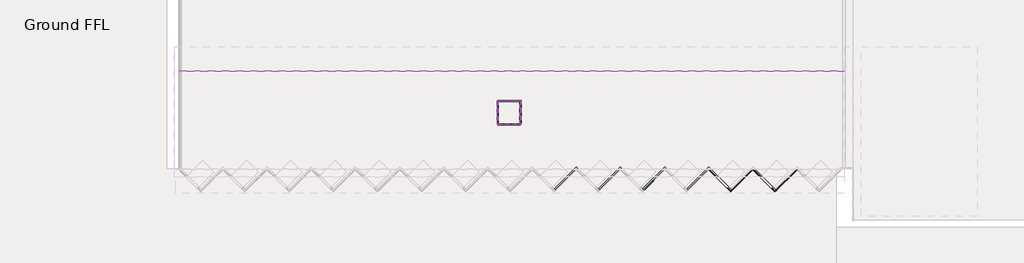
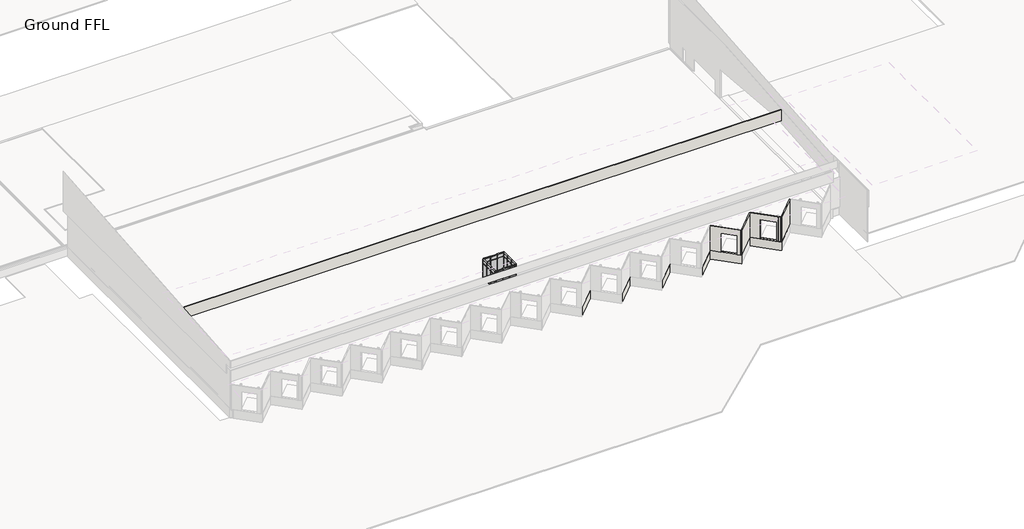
# One storey, part 2 of 7: 66 members, 24 plates, 11 walls.
"""IFC4 building model written with IfcOpenShell, lengths in millimetres."""

from ifc_helpers import new_model, si_unit, frame, origin, place, context, project, spatial, polyline, outline, extrude, faceted_brep, transform, mapped, element, save
from components import rectangular_mullion_50_x_150mm_662c37b1, rectangular_mullion_50_x_150mm_6225e4e3, rectangular_mullion_50_x_150mm_64d38db8, rectangular_mullion_50_x_150mm_68b3818a, rectangular_mullion_50_x_150mm_477ca9b8, rectangular_mullion_50_x_150mm_3d733e68, rectangular_mullion_50_x_150mm_c9412cac, rectangular_mullion_50_x_150mm_e8271e18, rectangular_mullion_50_x_150mm_bb29f1ad, rectangular_mullion_50_x_150mm_795c251c, rectangular_mullion_50_x_150mm_8f327472, rectangular_mullion_50_x_150mm_d24e7f91, rectangular_mullion_50_x_150mm_4b768477, rectangular_mullion_50_x_150mm_636173d5, system_panel_glazed_97791b95, system_panel_glazed_672343e4, system_panel_glazed_aafa14a7, system_panel_glazed_23566d67, system_panel_glazed_bf9b8f05, system_panel_glazed_0784fe47, system_panel_glazed_7d7c0d92, system_panel_glazed_c9ca4ddb, system_panel_glazed_bdccf6d4, system_panel_glazed_414e65e8, system_panel_glazed_72f60e3a, system_panel_glazed_5c63aebc

model = new_model("IFC4")

# Units and contexts
model_context = context("Model", 3, world=origin())
ifc_project = project(units=[si_unit("LENGTHUNIT", "METRE", prefix="MILLI")], contexts=[model_context])

# Site, building, storey
site = spatial("IfcSite", under=ifc_project)
building = spatial("IfcBuilding", under=site)
storey = spatial("IfcBuildingStorey", under=building, Name="Ground FFL", Elevation=44170.0)

# Members
placement = place(None, origin())
rectangular_mullion_50_x_150mm_shape = rectangular_mullion_50_x_150mm_662c37b1(model_context)
element("IfcMember", 1, ObjectType="Rectangular Mullion : 50 x 150mm", at=placement, inside=storey, context=model_context, shape_type="MappedRepresentation", body=[
    mapped(rectangular_mullion_50_x_150mm_shape, transform((-91650.5917799, -21321.740321, 44170.0), x_axis=(-1.0, 0.0, 0.0), y_axis=(0.0, 1.0, 0.0), z_axis=(0.0, 0.0, -1.0))),
])
element("IfcMember", 2, ObjectType="Rectangular Mullion : 50 x 150mm", at=placement, inside=storey, context=model_context, shape_type="MappedRepresentation", body=[
    mapped(rectangular_mullion_50_x_150mm_shape, transform((-91650.5917799, -24521.740321, 44170.0), x_axis=(-1.0, 0.0, 0.0), y_axis=(0.0, 1.0, 0.0), z_axis=(0.0, 0.0, -1.0))),
])
rectangular_mullion_50_x_150mm_2_shape = rectangular_mullion_50_x_150mm_6225e4e3(model_context)
element("IfcMember", 3, ObjectType="Rectangular Mullion : 50 x 150mm", at=placement, inside=storey, context=model_context, shape_type="MappedRepresentation", body=[
    mapped(rectangular_mullion_50_x_150mm_2_shape, transform((-89617.2584467, -24521.740321, 44170.0), x_axis=(-1.0, 0.0, 0.0), y_axis=(0.0, 1.0, 0.0), z_axis=(0.0, 0.0, -1.0))),
])
element("IfcMember", 4, ObjectType="Rectangular Mullion : 50 x 150mm", at=placement, inside=storey, context=model_context, shape_type="MappedRepresentation", body=[
    mapped(rectangular_mullion_50_x_150mm_2_shape, transform((-90633.9251131, -24521.740321, 44170.0), x_axis=(-1.0, 0.0, 0.0), y_axis=(0.0, 1.0, 0.0), z_axis=(0.0, 0.0, -1.0))),
])
element("IfcMember", 5, ObjectType="Rectangular Mullion : 50 x 150mm", at=placement, inside=storey, context=model_context, shape_type="MappedRepresentation", body=[
    mapped(rectangular_mullion_50_x_150mm_2_shape, transform((-89617.2584467, -21321.740321, 44170.0), x_axis=(-1.0, 0.0, 0.0), y_axis=(0.0, 1.0, 0.0), z_axis=(0.0, 0.0, -1.0))),
])
element("IfcMember", 6, ObjectType="Rectangular Mullion : 50 x 150mm", at=placement, inside=storey, context=model_context, shape_type="MappedRepresentation", body=[
    mapped(rectangular_mullion_50_x_150mm_2_shape, transform((-90633.9251131, -21321.740321, 44170.0), x_axis=(-1.0, 0.0, 0.0), y_axis=(0.0, 1.0, 0.0), z_axis=(0.0, 0.0, -1.0))),
])
rectangular_mullion_50_x_150mm_3_shape = rectangular_mullion_50_x_150mm_64d38db8(model_context)
element("IfcMember", 7, ObjectType="Rectangular Mullion : 50 x 150mm", at=placement, inside=storey, context=model_context, shape_type="MappedRepresentation", body=[
    mapped(rectangular_mullion_50_x_150mm_3_shape, transform((-88600.5917799, -24521.740321, 47170.0), x_axis=(1.0, 0.0, 0.0), y_axis=(0.0, 1.0, 0.0), z_axis=(0.0, 0.0, 1.0))),
])
element("IfcMember", 8, ObjectType="Rectangular Mullion : 50 x 150mm", at=placement, inside=storey, context=model_context, shape_type="MappedRepresentation", body=[
    mapped(rectangular_mullion_50_x_150mm_3_shape, transform((-91650.5917799, -24521.740321, 46570.0), x_axis=(-1.0, 0.0, 0.0), y_axis=(0.0, 1.0, 0.0), z_axis=(0.0, 0.0, -1.0))),
])
element("IfcMember", 9, ObjectType="Rectangular Mullion : 50 x 150mm", at=placement, inside=storey, context=model_context, shape_type="MappedRepresentation", body=[
    mapped(rectangular_mullion_50_x_150mm_shape, transform((-88600.5917799, -24521.740321, 46570.0), x_axis=(1.0, 0.0, 0.0), y_axis=(0.0, 1.0, 0.0), z_axis=(0.0, 0.0, 1.0))),
])
element("IfcMember", 10, ObjectType="Rectangular Mullion : 50 x 150mm", at=placement, inside=storey, context=model_context, shape_type="MappedRepresentation", body=[
    mapped(rectangular_mullion_50_x_150mm_shape, transform((-88600.5917799, -21321.740321, 46570.0), x_axis=(1.0, 0.0, 0.0), y_axis=(0.0, 1.0, 0.0), z_axis=(0.0, 0.0, 1.0))),
])
rectangular_mullion_50_x_150mm_4_shape = rectangular_mullion_50_x_150mm_68b3818a(model_context)
element("IfcMember", 11, ObjectType="Rectangular Mullion : 50 x 150mm", at=placement, inside=storey, context=model_context, shape_type="MappedRepresentation", body=[
    mapped(rectangular_mullion_50_x_150mm_4_shape, transform((-89617.2584467, -24521.740321, 46570.0), x_axis=(-1.0, 0.0, 0.0), y_axis=(0.0, 1.0, 0.0), z_axis=(0.0, 0.0, -1.0))),
])
element("IfcMember", 12, ObjectType="Rectangular Mullion : 50 x 150mm", at=placement, inside=storey, context=model_context, shape_type="MappedRepresentation", body=[
    mapped(rectangular_mullion_50_x_150mm_4_shape, transform((-90633.9251131, -24521.740321, 46570.0), x_axis=(-1.0, 0.0, 0.0), y_axis=(0.0, 1.0, 0.0), z_axis=(0.0, 0.0, -1.0))),
])
rectangular_mullion_50_x_150mm_5_shape = rectangular_mullion_50_x_150mm_477ca9b8(model_context)
element("IfcMember", 13, ObjectType="Rectangular Mullion : 50 x 150mm", at=placement, inside=storey, context=model_context, shape_type="MappedRepresentation", body=[
    mapped(rectangular_mullion_50_x_150mm_5_shape, transform((-88600.5917799, -24421.740321, 47170.0), x_axis=(0.0, 0.0, 1.0), y_axis=(-1.0, 0.0, 0.0), z_axis=(0.0, -1.0, 0.0))),
])
element("IfcMember", 14, ObjectType="Rectangular Mullion : 50 x 150mm", at=placement, inside=storey, context=model_context, shape_type="MappedRepresentation", body=[
    mapped(rectangular_mullion_50_x_150mm_5_shape, transform((-91700.5917799, -22363.4069878, 47171.145744), x_axis=(0.0, 0.0, 1.0), y_axis=(-1.0, 0.0, 0.0), z_axis=(0.0, -1.0, 0.0))),
])
element("IfcMember", 15, ObjectType="Rectangular Mullion : 50 x 150mm", at=placement, inside=storey, context=model_context, shape_type="MappedRepresentation", body=[
    mapped(rectangular_mullion_50_x_150mm_5_shape, transform((-88600.5917799, -22313.4069878, 47170.0), x_axis=(0.0, 0.0, 1.0), y_axis=(-1.0, 0.0, 0.0), z_axis=(0.0, -1.0, 0.0))),
])
element("IfcMember", 16, ObjectType="Rectangular Mullion : 50 x 150mm", at=placement, inside=storey, context=model_context, shape_type="MappedRepresentation", body=[
    mapped(rectangular_mullion_50_x_150mm_5_shape, transform((-91700.5917799, -21371.740321, 44170.0), x_axis=(0.0, 0.0, -1.0), y_axis=(-1.0, 0.0, 0.0), z_axis=(0.0, 1.0, 0.0))),
])
element("IfcMember", 17, ObjectType="Rectangular Mullion : 50 x 150mm", at=placement, inside=storey, context=model_context, shape_type="MappedRepresentation", body=[
    mapped(rectangular_mullion_50_x_150mm_5_shape, transform((-88600.5917799, -21321.740321, 44170.0), x_axis=(0.0, 0.0, -1.0), y_axis=(-1.0, 0.0, 0.0), z_axis=(0.0, 1.0, 0.0))),
])
element("IfcMember", 18, ObjectType="Rectangular Mullion : 50 x 150mm", at=placement, inside=storey, context=model_context, shape_type="MappedRepresentation", body=[
    mapped(rectangular_mullion_50_x_150mm_5_shape, transform((-91700.5917799, -23480.0736542, 44170.0), x_axis=(0.0, 0.0, -1.0), y_axis=(-1.0, 0.0, 0.0), z_axis=(0.0, 1.0, 0.0))),
])
element("IfcMember", 19, ObjectType="Rectangular Mullion : 50 x 150mm", at=placement, inside=storey, context=model_context, shape_type="MappedRepresentation", body=[
    mapped(rectangular_mullion_50_x_150mm_5_shape, transform((-88600.5917799, -23430.0736542, 44170.0), x_axis=(0.0, 0.0, -1.0), y_axis=(-1.0, 0.0, 0.0), z_axis=(0.0, 1.0, 0.0))),
])
rectangular_mullion_50_x_150mm_6_shape = rectangular_mullion_50_x_150mm_3d733e68(model_context)
element("IfcMember", 20, ObjectType="Rectangular Mullion : 50 x 150mm", at=placement, inside=storey, context=model_context, shape_type="MappedRepresentation", body=[
    mapped(rectangular_mullion_50_x_150mm_6_shape, transform((-91700.5917799, -23430.0736542, 47171.145744), x_axis=(0.0, 0.0, 1.0), y_axis=(-1.0, 0.0, 0.0), z_axis=(0.0, -1.0, 0.0))),
])
element("IfcMember", 21, ObjectType="Rectangular Mullion : 50 x 150mm", at=placement, inside=storey, context=model_context, shape_type="MappedRepresentation", body=[
    mapped(rectangular_mullion_50_x_150mm_6_shape, transform((-88600.5917799, -23380.0736542, 47170.0), x_axis=(0.0, 0.0, 1.0), y_axis=(-1.0, 0.0, 0.0), z_axis=(0.0, -1.0, 0.0))),
])
element("IfcMember", 22, ObjectType="Rectangular Mullion : 50 x 150mm", at=placement, inside=storey, context=model_context, shape_type="MappedRepresentation", body=[
    mapped(rectangular_mullion_50_x_150mm_6_shape, transform((-91700.5917799, -22413.4069878, 44170.0), x_axis=(0.0, 0.0, -1.0), y_axis=(-1.0, 0.0, 0.0), z_axis=(0.0, 1.0, 0.0))),
])
element("IfcMember", 23, ObjectType="Rectangular Mullion : 50 x 150mm", at=placement, inside=storey, context=model_context, shape_type="MappedRepresentation", body=[
    mapped(rectangular_mullion_50_x_150mm_6_shape, transform((-88600.5917799, -22363.4069878, 44170.0), x_axis=(0.0, 0.0, -1.0), y_axis=(-1.0, 0.0, 0.0), z_axis=(0.0, 1.0, 0.0))),
])
rectangular_mullion_50_x_150mm_7_shape = rectangular_mullion_50_x_150mm_c9412cac(model_context)
element("IfcMember", 24, ObjectType="Rectangular Mullion : 50 x 150mm", at=placement, inside=storey, context=model_context, shape_type="MappedRepresentation", body=[
    mapped(rectangular_mullion_50_x_150mm_7_shape, transform((-91700.5917799, -22363.4069878, 46570.0), x_axis=(0.0, 0.0, 1.0), y_axis=(-1.0, 0.0, 0.0), z_axis=(0.0, -1.0, 0.0))),
])
element("IfcMember", 25, ObjectType="Rectangular Mullion : 50 x 150mm", at=placement, inside=storey, context=model_context, shape_type="MappedRepresentation", body=[
    mapped(rectangular_mullion_50_x_150mm_7_shape, transform((-91700.5917799, -24471.740321, 46570.0), x_axis=(0.0, 0.0, 1.0), y_axis=(-1.0, 0.0, 0.0), z_axis=(0.0, -1.0, 0.0))),
])
element("IfcMember", 26, ObjectType="Rectangular Mullion : 50 x 150mm", at=placement, inside=storey, context=model_context, shape_type="MappedRepresentation", body=[
    mapped(rectangular_mullion_50_x_150mm_7_shape, transform((-88600.5917799, -22313.4069878, 46570.0), x_axis=(0.0, 0.0, 1.0), y_axis=(-1.0, 0.0, 0.0), z_axis=(0.0, -1.0, 0.0))),
])
element("IfcMember", 27, ObjectType="Rectangular Mullion : 50 x 150mm", at=placement, inside=storey, context=model_context, shape_type="MappedRepresentation", body=[
    mapped(rectangular_mullion_50_x_150mm_7_shape, transform((-88600.5917799, -24421.740321, 46570.0), x_axis=(0.0, 0.0, 1.0), y_axis=(-1.0, 0.0, 0.0), z_axis=(0.0, -1.0, 0.0))),
])
rectangular_mullion_50_x_150mm_8_shape = rectangular_mullion_50_x_150mm_e8271e18(model_context)
element("IfcMember", 28, ObjectType="Rectangular Mullion : 50 x 150mm", at=placement, inside=storey, context=model_context, shape_type="MappedRepresentation", body=[
    mapped(rectangular_mullion_50_x_150mm_8_shape, transform((-91700.5917799, -23430.0736542, 46570.0), x_axis=(0.0, 0.0, 1.0), y_axis=(-1.0, 0.0, 0.0), z_axis=(0.0, -1.0, 0.0))),
])
element("IfcMember", 29, ObjectType="Rectangular Mullion : 50 x 150mm", at=placement, inside=storey, context=model_context, shape_type="MappedRepresentation", body=[
    mapped(rectangular_mullion_50_x_150mm_8_shape, transform((-88600.5917799, -23380.0736542, 46570.0), x_axis=(0.0, 0.0, 1.0), y_axis=(-1.0, 0.0, 0.0), z_axis=(0.0, -1.0, 0.0))),
])
element("IfcMember", 30, ObjectType="Rectangular Mullion : 50 x 150mm", at=placement, inside=storey, context=model_context, shape_type="MappedRepresentation", body=[
    mapped(rectangular_mullion_50_x_150mm_2_shape, transform((-91700.5917799, -22388.4069878, 44170.0), x_axis=(0.0, -1.0, 0.0), y_axis=(-1.0, 0.0, 0.0), z_axis=(0.0, 0.0, -1.0))),
])
element("IfcMember", 31, ObjectType="Rectangular Mullion : 50 x 150mm", at=placement, inside=storey, context=model_context, shape_type="MappedRepresentation", body=[
    mapped(rectangular_mullion_50_x_150mm_2_shape, transform((-91700.5917799, -23455.0736542, 44170.0), x_axis=(0.0, -1.0, 0.0), y_axis=(-1.0, 0.0, 0.0), z_axis=(0.0, 0.0, -1.0))),
])
element("IfcMember", 32, ObjectType="Rectangular Mullion : 50 x 150mm", at=placement, inside=storey, context=model_context, shape_type="MappedRepresentation", body=[
    mapped(rectangular_mullion_50_x_150mm_2_shape, transform((-88600.5917799, -22338.4069878, 44170.0), x_axis=(0.0, -1.0, 0.0), y_axis=(-1.0, 0.0, 0.0), z_axis=(0.0, 0.0, -1.0))),
])
element("IfcMember", 33, ObjectType="Rectangular Mullion : 50 x 150mm", at=placement, inside=storey, context=model_context, shape_type="MappedRepresentation", body=[
    mapped(rectangular_mullion_50_x_150mm_2_shape, transform((-88600.5917799, -23405.0736542, 44170.0), x_axis=(0.0, -1.0, 0.0), y_axis=(-1.0, 0.0, 0.0), z_axis=(0.0, 0.0, -1.0))),
])
rectangular_mullion_50_x_150mm_9_shape = rectangular_mullion_50_x_150mm_bb29f1ad(model_context)
element("IfcMember", 34, ObjectType="Rectangular Mullion : 50 x 150mm", at=placement, inside=storey, context=model_context, shape_type="MappedRepresentation", body=[
    mapped(rectangular_mullion_50_x_150mm_9_shape, transform((-91600.5917799, -21321.740321, 47171.145744), x_axis=(0.0, 0.0, 1.0), y_axis=(0.0, 1.0, 0.0), z_axis=(-1.0, 0.0, 0.0))),
])
element("IfcMember", 35, ObjectType="Rectangular Mullion : 50 x 150mm", at=placement, inside=storey, context=model_context, shape_type="MappedRepresentation", body=[
    mapped(rectangular_mullion_50_x_150mm_9_shape, transform((-91600.5917799, -24521.740321, 47170.0), x_axis=(0.0, 0.0, 1.0), y_axis=(0.0, 1.0, 0.0), z_axis=(-1.0, 0.0, 0.0))),
])
element("IfcMember", 36, ObjectType="Rectangular Mullion : 50 x 150mm", at=placement, inside=storey, context=model_context, shape_type="MappedRepresentation", body=[
    mapped(rectangular_mullion_50_x_150mm_9_shape, transform((-89592.2584467, -24521.740321, 47170.0), x_axis=(0.0, 0.0, 1.0), y_axis=(0.0, 1.0, 0.0), z_axis=(-1.0, 0.0, 0.0))),
])
element("IfcMember", 37, ObjectType="Rectangular Mullion : 50 x 150mm", at=placement, inside=storey, context=model_context, shape_type="MappedRepresentation", body=[
    mapped(rectangular_mullion_50_x_150mm_9_shape, transform((-89592.2584467, -21321.740321, 47171.145744), x_axis=(0.0, 0.0, 1.0), y_axis=(0.0, 1.0, 0.0), z_axis=(-1.0, 0.0, 0.0))),
])
element("IfcMember", 38, ObjectType="Rectangular Mullion : 50 x 150mm", at=placement, inside=storey, context=model_context, shape_type="MappedRepresentation", body=[
    mapped(rectangular_mullion_50_x_150mm_9_shape, transform((-88650.5917799, -21321.740321, 44170.0), x_axis=(0.0, 0.0, -1.0), y_axis=(0.0, 1.0, 0.0), z_axis=(1.0, 0.0, 0.0))),
])
element("IfcMember", 39, ObjectType="Rectangular Mullion : 50 x 150mm", at=placement, inside=storey, context=model_context, shape_type="MappedRepresentation", body=[
    mapped(rectangular_mullion_50_x_150mm_9_shape, transform((-88650.5917799, -24521.740321, 44170.0), x_axis=(0.0, 0.0, -1.0), y_axis=(0.0, 1.0, 0.0), z_axis=(1.0, 0.0, 0.0))),
])
element("IfcMember", 40, ObjectType="Rectangular Mullion : 50 x 150mm", at=placement, inside=storey, context=model_context, shape_type="MappedRepresentation", body=[
    mapped(rectangular_mullion_50_x_150mm_9_shape, transform((-90658.9251131, -24521.740321, 44170.0), x_axis=(0.0, 0.0, -1.0), y_axis=(0.0, 1.0, 0.0), z_axis=(1.0, 0.0, 0.0))),
])
element("IfcMember", 41, ObjectType="Rectangular Mullion : 50 x 150mm", at=placement, inside=storey, context=model_context, shape_type="MappedRepresentation", body=[
    mapped(rectangular_mullion_50_x_150mm_9_shape, transform((-90658.9251131, -21321.740321, 44170.0), x_axis=(0.0, 0.0, -1.0), y_axis=(0.0, 1.0, 0.0), z_axis=(1.0, 0.0, 0.0))),
])
rectangular_mullion_50_x_150mm_10_shape = rectangular_mullion_50_x_150mm_795c251c(model_context)
element("IfcMember", 42, ObjectType="Rectangular Mullion : 50 x 150mm", at=placement, inside=storey, context=model_context, shape_type="MappedRepresentation", body=[
    mapped(rectangular_mullion_50_x_150mm_10_shape, transform((-90608.9251131, -24521.740321, 47170.0), x_axis=(0.0, 0.0, 1.0), y_axis=(0.0, 1.0, 0.0), z_axis=(-1.0, 0.0, 0.0))),
])
element("IfcMember", 43, ObjectType="Rectangular Mullion : 50 x 150mm", at=placement, inside=storey, context=model_context, shape_type="MappedRepresentation", body=[
    mapped(rectangular_mullion_50_x_150mm_10_shape, transform((-90608.9251131, -21321.740321, 47171.145744), x_axis=(0.0, 0.0, 1.0), y_axis=(0.0, 1.0, 0.0), z_axis=(-1.0, 0.0, 0.0))),
])
element("IfcMember", 44, ObjectType="Rectangular Mullion : 50 x 150mm", at=placement, inside=storey, context=model_context, shape_type="MappedRepresentation", body=[
    mapped(rectangular_mullion_50_x_150mm_10_shape, transform((-89642.2584467, -24521.740321, 44170.0), x_axis=(0.0, 0.0, -1.0), y_axis=(0.0, 1.0, 0.0), z_axis=(1.0, 0.0, 0.0))),
])
element("IfcMember", 45, ObjectType="Rectangular Mullion : 50 x 150mm", at=placement, inside=storey, context=model_context, shape_type="MappedRepresentation", body=[
    mapped(rectangular_mullion_50_x_150mm_10_shape, transform((-89642.2584467, -21321.740321, 44170.0), x_axis=(0.0, 0.0, -1.0), y_axis=(0.0, 1.0, 0.0), z_axis=(1.0, 0.0, 0.0))),
])
rectangular_mullion_50_x_150mm_11_shape = rectangular_mullion_50_x_150mm_8f327472(model_context)
element("IfcMember", 46, ObjectType="Rectangular Mullion : 50 x 150mm", at=placement, inside=storey, context=model_context, shape_type="MappedRepresentation", body=[
    mapped(rectangular_mullion_50_x_150mm_11_shape, transform((-89592.2584467, -24521.740321, 46570.0), x_axis=(0.0, 0.0, 1.0), y_axis=(0.0, 1.0, 0.0), z_axis=(-1.0, 0.0, 0.0))),
])
element("IfcMember", 47, ObjectType="Rectangular Mullion : 50 x 150mm", at=placement, inside=storey, context=model_context, shape_type="MappedRepresentation", body=[
    mapped(rectangular_mullion_50_x_150mm_11_shape, transform((-91600.5917799, -24521.740321, 46570.0), x_axis=(0.0, 0.0, 1.0), y_axis=(0.0, 1.0, 0.0), z_axis=(-1.0, 0.0, 0.0))),
])
element("IfcMember", 48, ObjectType="Rectangular Mullion : 50 x 150mm", at=placement, inside=storey, context=model_context, shape_type="MappedRepresentation", body=[
    mapped(rectangular_mullion_50_x_150mm_11_shape, transform((-89592.2584467, -21321.740321, 46570.0), x_axis=(0.0, 0.0, 1.0), y_axis=(0.0, 1.0, 0.0), z_axis=(-1.0, 0.0, 0.0))),
])
element("IfcMember", 49, ObjectType="Rectangular Mullion : 50 x 150mm", at=placement, inside=storey, context=model_context, shape_type="MappedRepresentation", body=[
    mapped(rectangular_mullion_50_x_150mm_11_shape, transform((-91600.5917799, -21321.740321, 46570.0), x_axis=(0.0, 0.0, 1.0), y_axis=(0.0, 1.0, 0.0), z_axis=(-1.0, 0.0, 0.0))),
])
rectangular_mullion_50_x_150mm_12_shape = rectangular_mullion_50_x_150mm_d24e7f91(model_context)
element("IfcMember", 50, ObjectType="Rectangular Mullion : 50 x 150mm", at=placement, inside=storey, context=model_context, shape_type="MappedRepresentation", body=[
    mapped(rectangular_mullion_50_x_150mm_12_shape, transform((-90608.9251131, -24521.740321, 46570.0), x_axis=(0.0, 0.0, 1.0), y_axis=(0.0, 1.0, 0.0), z_axis=(-1.0, 0.0, 0.0))),
])
element("IfcMember", 51, ObjectType="Rectangular Mullion : 50 x 150mm", at=placement, inside=storey, context=model_context, shape_type="MappedRepresentation", body=[
    mapped(rectangular_mullion_50_x_150mm_12_shape, transform((-90608.9251131, -21321.740321, 46570.0), x_axis=(0.0, 0.0, 1.0), y_axis=(0.0, 1.0, 0.0), z_axis=(-1.0, 0.0, 0.0))),
])
element("IfcMember", 52, ObjectType="Rectangular Mullion : 50 x 150mm", at=placement, inside=storey, context=model_context, shape_type="MappedRepresentation", body=[
    mapped(rectangular_mullion_50_x_150mm_shape, transform((-88600.5917799, -24471.740321, 44170.0), x_axis=(0.0, -1.0, 0.0), y_axis=(-1.0, 0.0, 0.0), z_axis=(0.0, 0.0, -1.0))),
])
element("IfcMember", 53, ObjectType="Rectangular Mullion : 50 x 150mm", at=placement, inside=storey, context=model_context, shape_type="MappedRepresentation", body=[
    mapped(rectangular_mullion_50_x_150mm_shape, transform((-91700.5917799, -21321.740321, 46570.0), x_axis=(0.0, 1.0, 0.0), y_axis=(-1.0, 0.0, 0.0), z_axis=(0.0, 0.0, 1.0))),
])
element("IfcMember", 54, ObjectType="Rectangular Mullion : 50 x 150mm", at=placement, inside=storey, context=model_context, shape_type="MappedRepresentation", body=[
    mapped(rectangular_mullion_50_x_150mm_shape, transform((-88600.5917799, -21271.740321, 46570.0), x_axis=(0.0, 1.0, 0.0), y_axis=(-1.0, 0.0, 0.0), z_axis=(0.0, 0.0, 1.0))),
])
element("IfcMember", 55, ObjectType="Rectangular Mullion : 50 x 150mm", at=placement, inside=storey, context=model_context, shape_type="MappedRepresentation", body=[
    mapped(rectangular_mullion_50_x_150mm_4_shape, transform((-88600.5917799, -22338.4069878, 46570.0), x_axis=(0.0, -1.0, 0.0), y_axis=(-1.0, 0.0, 0.0), z_axis=(0.0, 0.0, -1.0))),
])
element("IfcMember", 56, ObjectType="Rectangular Mullion : 50 x 150mm", at=placement, inside=storey, context=model_context, shape_type="MappedRepresentation", body=[
    mapped(rectangular_mullion_50_x_150mm_4_shape, transform((-88600.5917799, -23405.0736542, 46570.0), x_axis=(0.0, -1.0, 0.0), y_axis=(-1.0, 0.0, 0.0), z_axis=(0.0, 0.0, -1.0))),
])
element("IfcMember", 57, ObjectType="Rectangular Mullion : 50 x 150mm", at=placement, inside=storey, context=model_context, shape_type="MappedRepresentation", body=[
    mapped(rectangular_mullion_50_x_150mm_3_shape, transform((-88600.5917799, -21271.740321, 47170.0), x_axis=(0.0, 1.0, 0.0), y_axis=(-1.0, 0.0, 0.0), z_axis=(0.0, 0.0, 1.0))),
])
element("IfcMember", 58, ObjectType="Rectangular Mullion : 50 x 150mm", at=placement, inside=storey, context=model_context, shape_type="MappedRepresentation", body=[
    mapped(rectangular_mullion_50_x_150mm_3_shape, transform((-88600.5917799, -24471.740321, 46570.0), x_axis=(0.0, -1.0, 0.0), y_axis=(-1.0, 0.0, 0.0), z_axis=(0.0, 0.0, -1.0))),
])
rectangular_mullion_50_x_150mm_13_shape = rectangular_mullion_50_x_150mm_4b768477(model_context)
element("IfcMember", 59, ObjectType="Rectangular Mullion : 50 x 150mm", at=placement, inside=storey, context=model_context, shape_type="MappedRepresentation", body=[
    mapped(rectangular_mullion_50_x_150mm_13_shape, transform((-91700.5917799, -22388.4069878, 46570.0), x_axis=(0.0, -1.0, 0.0), y_axis=(-1.0, 0.0, 0.0), z_axis=(0.0, 0.0, -1.0))),
])
element("IfcMember", 60, ObjectType="Rectangular Mullion : 50 x 150mm", at=placement, inside=storey, context=model_context, shape_type="MappedRepresentation", body=[
    mapped(rectangular_mullion_50_x_150mm_13_shape, transform((-91700.5917799, -23455.0736542, 46570.0), x_axis=(0.0, -1.0, 0.0), y_axis=(-1.0, 0.0, 0.0), z_axis=(0.0, 0.0, -1.0))),
])
rectangular_mullion_50_x_150mm_14_shape = rectangular_mullion_50_x_150mm_636173d5(model_context)
element("IfcMember", 61, ObjectType="Rectangular Mullion : 50 x 150mm", at=placement, inside=storey, context=model_context, shape_type="MappedRepresentation", body=[
    mapped(rectangular_mullion_50_x_150mm_14_shape, transform((-91700.5917799, -21321.740321, 47171.145744), x_axis=(0.0, 1.0, 0.0), y_axis=(-1.0, 0.0, 0.0), z_axis=(0.0, 0.0, 1.0))),
])
element("IfcMember", 62, ObjectType="Rectangular Mullion : 50 x 150mm", at=placement, inside=storey, context=model_context, shape_type="MappedRepresentation", body=[
    mapped(rectangular_mullion_50_x_150mm_14_shape, transform((-91700.5917799, -24521.740321, 46570.0), x_axis=(0.0, -1.0, 0.0), y_axis=(-1.0, 0.0, 0.0), z_axis=(0.0, 0.0, -1.0))),
])
element("IfcMember", 63, ObjectType="Rectangular Mullion : 50 x 150mm", at=placement, inside=storey, context=model_context, shape_type="MappedRepresentation", body=[
    mapped(rectangular_mullion_50_x_150mm_13_shape, transform((-89617.2584467, -21321.740321, 46570.0), x_axis=(-1.0, 0.0, 0.0), y_axis=(0.0, 1.0, 0.0), z_axis=(0.0, 0.0, -1.0))),
])
element("IfcMember", 64, ObjectType="Rectangular Mullion : 50 x 150mm", at=placement, inside=storey, context=model_context, shape_type="MappedRepresentation", body=[
    mapped(rectangular_mullion_50_x_150mm_13_shape, transform((-90633.9251131, -21321.740321, 46570.0), x_axis=(-1.0, 0.0, 0.0), y_axis=(0.0, 1.0, 0.0), z_axis=(0.0, 0.0, -1.0))),
])
element("IfcMember", 65, ObjectType="Rectangular Mullion : 50 x 150mm", at=placement, inside=storey, context=model_context, shape_type="MappedRepresentation", body=[
    mapped(rectangular_mullion_50_x_150mm_14_shape, transform((-88600.5917799, -21321.740321, 47171.145744), x_axis=(1.0, 0.0, 0.0), y_axis=(0.0, 1.0, 0.0), z_axis=(0.0, 0.0, 1.0))),
])
element("IfcMember", 66, ObjectType="Rectangular Mullion : 50 x 150mm", at=placement, inside=storey, context=model_context, shape_type="MappedRepresentation", body=[
    mapped(rectangular_mullion_50_x_150mm_14_shape, transform((-91650.5917799, -21321.740321, 46570.0), x_axis=(-1.0, 0.0, 0.0), y_axis=(0.0, 1.0, 0.0), z_axis=(0.0, 0.0, -1.0))),
])

# Plates
system_panel_glazed_shape = system_panel_glazed_97791b95(model_context)
element("IfcPlate", 67, ObjectType="System Panel : Glazed", at=placement, inside=storey, context=model_context, shape_type="MappedRepresentation", body=[
    mapped(system_panel_glazed_shape, transform((-91700.5917799, -21867.5736544, 44220.0), x_axis=(0.0, -1.0, 0.0), y_axis=(1.0, 0.0, 0.0), z_axis=(0.0, 0.0, 1.0))),
])
element("IfcPlate", 68, ObjectType="System Panel : Glazed", at=placement, inside=storey, context=model_context, shape_type="MappedRepresentation", body=[
    mapped(system_panel_glazed_shape, transform((-88600.5917799, -21817.5736544, 44220.0), x_axis=(0.0, -1.0, 0.0), y_axis=(1.0, 0.0, 0.0), z_axis=(0.0, 0.0, 1.0))),
])
element("IfcPlate", 69, ObjectType="System Panel : Glazed", at=placement, inside=storey, context=model_context, shape_type="MappedRepresentation", body=[
    mapped(system_panel_glazed_shape, transform((-91700.5917799, -23975.9069876, 44220.0), x_axis=(0.0, -1.0, 0.0), y_axis=(1.0, 0.0, 0.0), z_axis=(0.0, 0.0, 1.0))),
])
element("IfcPlate", 70, ObjectType="System Panel : Glazed", at=placement, inside=storey, context=model_context, shape_type="MappedRepresentation", body=[
    mapped(system_panel_glazed_shape, transform((-88600.5917799, -23925.9069876, 44220.0), x_axis=(0.0, -1.0, 0.0), y_axis=(1.0, 0.0, 0.0), z_axis=(0.0, 0.0, 1.0))),
])
system_panel_glazed_2_shape = system_panel_glazed_672343e4(model_context)
element("IfcPlate", 71, ObjectType="System Panel : Glazed", at=placement, inside=storey, context=model_context, shape_type="MappedRepresentation", body=[
    mapped(system_panel_glazed_2_shape, transform((-89121.4251133, -21321.740321, 44220.0), x_axis=(-1.0, 0.0, 0.0), y_axis=(0.0, -1.0, 0.0), z_axis=(0.0, 0.0, 1.0))),
])
element("IfcPlate", 72, ObjectType="System Panel : Glazed", at=placement, inside=storey, context=model_context, shape_type="MappedRepresentation", body=[
    mapped(system_panel_glazed_2_shape, transform((-89121.4251133, -24521.740321, 44220.0), x_axis=(-1.0, 0.0, 0.0), y_axis=(0.0, -1.0, 0.0), z_axis=(0.0, 0.0, 1.0))),
])
element("IfcPlate", 73, ObjectType="System Panel : Glazed", at=placement, inside=storey, context=model_context, shape_type="MappedRepresentation", body=[
    mapped(system_panel_glazed_2_shape, transform((-91129.7584465, -21321.740321, 44220.0), x_axis=(-1.0, 0.0, 0.0), y_axis=(0.0, -1.0, 0.0), z_axis=(0.0, 0.0, 1.0))),
])
element("IfcPlate", 74, ObjectType="System Panel : Glazed", at=placement, inside=storey, context=model_context, shape_type="MappedRepresentation", body=[
    mapped(system_panel_glazed_2_shape, transform((-91129.7584465, -24521.740321, 44220.0), x_axis=(-1.0, 0.0, 0.0), y_axis=(0.0, -1.0, 0.0), z_axis=(0.0, 0.0, 1.0))),
])
system_panel_glazed_3_shape = system_panel_glazed_aafa14a7(model_context)
element("IfcPlate", 75, ObjectType="System Panel : Glazed", at=placement, inside=storey, context=model_context, shape_type="MappedRepresentation", body=[
    mapped(system_panel_glazed_3_shape, transform((-91700.5917799, -22921.740321, 44220.0), x_axis=(0.0, -1.0, 0.0), y_axis=(1.0, 0.0, 0.0), z_axis=(0.0, 0.0, 1.0))),
])
element("IfcPlate", 76, ObjectType="System Panel : Glazed", at=placement, inside=storey, context=model_context, shape_type="MappedRepresentation", body=[
    mapped(system_panel_glazed_3_shape, transform((-88600.5917799, -22871.740321, 44220.0), x_axis=(0.0, -1.0, 0.0), y_axis=(1.0, 0.0, 0.0), z_axis=(0.0, 0.0, 1.0))),
])
system_panel_glazed_4_shape = system_panel_glazed_23566d67(model_context)
element("IfcPlate", 77, ObjectType="System Panel : Glazed", at=placement, inside=storey, context=model_context, shape_type="MappedRepresentation", body=[
    mapped(system_panel_glazed_4_shape, transform((-90125.5917799, -21321.740321, 44220.0), x_axis=(-1.0, 0.0, 0.0), y_axis=(0.0, -1.0, 0.0), z_axis=(0.0, 0.0, 1.0))),
])
element("IfcPlate", 78, ObjectType="System Panel : Glazed", at=placement, inside=storey, context=model_context, shape_type="MappedRepresentation", body=[
    mapped(system_panel_glazed_4_shape, transform((-90125.5917799, -24521.740321, 44220.0), x_axis=(-1.0, 0.0, 0.0), y_axis=(0.0, -1.0, 0.0), z_axis=(0.0, 0.0, 1.0))),
])
system_panel_glazed_5_shape = system_panel_glazed_bf9b8f05(model_context)
element("IfcPlate", 79, ObjectType="System Panel : Glazed", at=placement, inside=storey, context=model_context, shape_type="MappedRepresentation", body=[
    mapped(system_panel_glazed_5_shape, transform((-89121.4251133, -24521.740321, 46595.0), x_axis=(-1.0, 0.0, 0.0), y_axis=(0.0, -1.0, 0.0), z_axis=(0.0, 0.0, 1.0))),
])
element("IfcPlate", 80, ObjectType="System Panel : Glazed", at=placement, inside=storey, context=model_context, shape_type="MappedRepresentation", body=[
    mapped(system_panel_glazed_5_shape, transform((-91129.7584465, -24521.740321, 46595.0), x_axis=(-1.0, 0.0, 0.0), y_axis=(0.0, -1.0, 0.0), z_axis=(0.0, 0.0, 1.0))),
])
system_panel_glazed_6_shape = system_panel_glazed_0784fe47(model_context)
element("IfcPlate", 81, ObjectType="System Panel : Glazed", at=placement, inside=storey, context=model_context, shape_type="MappedRepresentation", body=[
    mapped(system_panel_glazed_6_shape, transform((-90125.5917799, -24521.740321, 46595.0), x_axis=(-1.0, 0.0, 0.0), y_axis=(0.0, -1.0, 0.0), z_axis=(0.0, 0.0, 1.0))),
])
system_panel_glazed_7_shape = system_panel_glazed_7d7c0d92(model_context)
element("IfcPlate", 82, ObjectType="System Panel : Glazed", at=placement, inside=storey, context=model_context, shape_type="MappedRepresentation", body=[
    mapped(system_panel_glazed_7_shape, transform((-88600.5917799, -21817.5736544, 46595.0), x_axis=(0.0, -1.0, 0.0), y_axis=(1.0, 0.0, 0.0), z_axis=(0.0, 0.0, 1.0))),
])
element("IfcPlate", 83, ObjectType="System Panel : Glazed", at=placement, inside=storey, context=model_context, shape_type="MappedRepresentation", body=[
    mapped(system_panel_glazed_7_shape, transform((-88600.5917799, -23925.9069876, 46595.0), x_axis=(0.0, -1.0, 0.0), y_axis=(1.0, 0.0, 0.0), z_axis=(0.0, 0.0, 1.0))),
])
system_panel_glazed_8_shape = system_panel_glazed_c9ca4ddb(model_context)
element("IfcPlate", 84, ObjectType="System Panel : Glazed", at=placement, inside=storey, context=model_context, shape_type="MappedRepresentation", body=[
    mapped(system_panel_glazed_8_shape, transform((-88600.5917799, -22871.740321, 46595.0), x_axis=(0.0, -1.0, 0.0), y_axis=(1.0, 0.0, 0.0), z_axis=(0.0, 0.0, 1.0))),
])
system_panel_glazed_9_shape = system_panel_glazed_bdccf6d4(model_context)
element("IfcPlate", 85, ObjectType="System Panel : Glazed", at=placement, inside=storey, context=model_context, shape_type="MappedRepresentation", body=[
    mapped(system_panel_glazed_9_shape, transform((-91700.5917799, -21867.5736544, 46595.0), x_axis=(0.0, -1.0, 0.0), y_axis=(1.0, 0.0, 0.0), z_axis=(0.0, 0.0, 1.0))),
])
element("IfcPlate", 86, ObjectType="System Panel : Glazed", at=placement, inside=storey, context=model_context, shape_type="MappedRepresentation", body=[
    mapped(system_panel_glazed_9_shape, transform((-91700.5917799, -23975.9069876, 46595.0), x_axis=(0.0, -1.0, 0.0), y_axis=(1.0, 0.0, 0.0), z_axis=(0.0, 0.0, 1.0))),
])
system_panel_glazed_10_shape = system_panel_glazed_414e65e8(model_context)
element("IfcPlate", 87, ObjectType="System Panel : Glazed", at=placement, inside=storey, context=model_context, shape_type="MappedRepresentation", body=[
    mapped(system_panel_glazed_10_shape, transform((-91700.5917799, -22921.740321, 46595.0), x_axis=(0.0, -1.0, 0.0), y_axis=(1.0, 0.0, 0.0), z_axis=(0.0, 0.0, 1.0))),
])
system_panel_glazed_11_shape = system_panel_glazed_72f60e3a(model_context)
element("IfcPlate", 88, ObjectType="System Panel : Glazed", at=placement, inside=storey, context=model_context, shape_type="MappedRepresentation", body=[
    mapped(system_panel_glazed_11_shape, transform((-89121.4251133, -21321.740321, 46595.0), x_axis=(-1.0, 0.0, 0.0), y_axis=(0.0, -1.0, 0.0), z_axis=(0.0, 0.0, 1.0))),
])
element("IfcPlate", 89, ObjectType="System Panel : Glazed", at=placement, inside=storey, context=model_context, shape_type="MappedRepresentation", body=[
    mapped(system_panel_glazed_11_shape, transform((-91129.7584465, -21321.740321, 46595.0), x_axis=(-1.0, 0.0, 0.0), y_axis=(0.0, -1.0, 0.0), z_axis=(0.0, 0.0, 1.0))),
])
system_panel_glazed_12_shape = system_panel_glazed_5c63aebc(model_context)
element("IfcPlate", 90, ObjectType="System Panel : Glazed", at=placement, inside=storey, context=model_context, shape_type="MappedRepresentation", body=[
    mapped(system_panel_glazed_12_shape, transform((-90125.5917799, -21321.740321, 46595.0), x_axis=(-1.0, 0.0, 0.0), y_axis=(0.0, -1.0, 0.0), z_axis=(0.0, 0.0, 1.0))),
])

# Walls
element("IfcWall", 91, ObjectType="Isopanel", at=placement, inside=storey, context=model_context, shape_type="Brep", body=[
    faceted_brep([(-54115.1737304, -33674.3222716, 44170.0), (-51122.5120901, -30681.6606312, 44170.0), (-51122.5120901, -30681.6606312, 48080.3515496), (-54115.1737304, -33674.3222716, 48080.3515496), (-54185.8844086, -33603.6115935, 44170.0), (-54185.8844086, -33603.6115935, 48080.3515496), (-54115.1737304, -33532.9009153, 48080.3515496), (-51193.2227682, -30610.9499531, 48080.3515496), (-51193.2227682, -30610.9499531, 44170.0), (-54115.1737304, -33532.9009153, 44170.0)], [[[0, 1, 2, 3]], [[4, 5, 6, 7, 8, 9]], [[1, 0, 4, 9, 8]], [[3, 2, 7, 6, 5]], [[0, 3, 5, 4]], [[2, 1, 8, 7]]]),
])
element("IfcWall", 92, ObjectType="Isopanel", at=placement, inside=storey, context=model_context, shape_type="SweptSolid", body=[
    extrude(outline(polyline([(2391.8706318, -3910.3515496), (-1704.4214848, -3910.3515496), (-1704.4214848, 0.0), (-348.1293682, 0.0), (-348.1293682, -3000.0), (1851.8706318, -3000.0), (1851.8706318, 0.0), (2391.8706318, 0.0), (2391.8706318, -3910.3515496)])), frame((-55877.192352, -31912.30365, 44170.0), z_axis=(0.7071067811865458, 0.7071067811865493, 0.0), x_axis=(0.7071067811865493, -0.7071067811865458, 0.0)), (0.0, 0.0, 1.0), 100.0),
])
element("IfcWall", 93, ObjectType="Isopanel", at=placement, inside=storey, context=model_context, shape_type="Brep", body=[
    faceted_brep([(-60100.4970111, -33674.3222716, 44170.0), (-57133.2703996, -30707.0956601, 44170.0), (-57133.2703996, -30707.0956601, 48080.3515496), (-60100.4970111, -33674.3222716, 48080.3515496), (-60171.2076892, -33603.6115935, 44170.0), (-60171.2076892, -33603.6115935, 48080.3515496), (-60100.4970111, -33532.9009153, 48080.3515496), (-57203.9810777, -30636.384982, 48080.3515496), (-57203.9810777, -30636.384982, 44170.0), (-60100.4970111, -33532.9009153, 44170.0)], [[[0, 1, 2, 3]], [[4, 5, 6, 7, 8, 9]], [[1, 0, 4, 9, 8]], [[2, 1, 8, 7]], [[3, 2, 7, 6, 5]], [[0, 3, 5, 4]]]),
])
element("IfcWall", 94, ObjectType="Isopanel", at=placement, inside=storey, context=model_context, shape_type="SweptSolid", body=[
    extrude(outline(polyline([(2391.8706318, -3910.3515496), (-1704.4214848, -3910.3515496), (-1704.4214848, 0.0), (-318.1293683, 0.0), (-318.1293683, -3000.0), (1881.8706318, -3000.0), (1881.8706318, 0.0), (2391.8706318, 0.0), (2391.8706318, -3910.3515496)])), frame((-61862.5156327, -31912.30365, 44170.0), z_axis=(0.7071067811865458, 0.7071067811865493, 0.0), x_axis=(0.7071067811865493, -0.7071067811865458, 0.0)), (0.0, 0.0, 1.0), 100.0),
])
element("IfcWall", 95, ObjectType="300 bund wall", at=placement, inside=storey, context=model_context, shape_type="Brep", body=[
    faceted_brep([(-80836.9964591, -30469.5285969, 44170.0), (-81049.1284935, -30681.6606312, 44170.0), (-83829.6580995, -33462.1902372, 44170.0), (-83829.6580995, -33462.1902372, 42670.0), (-81049.1284935, -30681.6606312, 42670.0), (-80836.9964591, -30469.5285969, 42670.0), (-84041.7901338, -33250.0582029, 44170.0), (-81049.1284935, -30257.3965625, 44170.0), (-81049.1284935, -30257.3965625, 42670.0), (-84041.7901338, -33250.0582029, 42670.0)], [[[0, 1, 2, 3, 4, 5]], [[6, 7, 8, 9]], [[2, 1, 0, 7, 6]], [[5, 4, 3, 9, 8]], [[3, 2, 6, 9]], [[0, 5, 8, 7]]]),
])
element("IfcWall", 96, ObjectType="300 bund wall", at=placement, inside=storey, context=model_context, shape_type="Brep", body=[
    faceted_brep([(-74851.6731785, -30469.5285969, 44170.0), (-75063.8052128, -30681.6606312, 44170.0), (-77844.3348188, -33462.1902372, 44170.0), (-77844.3348188, -33462.1902372, 42670.0), (-75063.8052128, -30681.6606312, 42670.0), (-74851.6731785, -30469.5285969, 42670.0), (-78056.4668532, -33250.0582029, 44170.0), (-75063.8052128, -30257.3965625, 44170.0), (-75063.8052128, -30257.3965625, 42670.0), (-78056.4668532, -33250.0582029, 42670.0)], [[[0, 1, 2, 3, 4, 5]], [[6, 7, 8, 9]], [[2, 1, 0, 7, 6]], [[5, 4, 3, 9, 8]], [[3, 2, 6, 9]], [[0, 5, 8, 7]]]),
])
element("IfcWall", 97, ObjectType="300 bund wall", at=placement, inside=storey, context=model_context, shape_type="Brep", body=[
    faceted_brep([(-68866.3498978, -30469.5285969, 44170.0), (-69078.4819321, -30681.6606312, 44170.0), (-71859.0115381, -33462.1902372, 44170.0), (-71859.0115381, -33462.1902372, 42670.0), (-69078.4819321, -30681.6606312, 42670.0), (-68866.3498978, -30469.5285969, 42670.0), (-72071.1435725, -33250.0582029, 44170.0), (-69078.4819321, -30257.3965625, 44170.0), (-69078.4819321, -30257.3965625, 42670.0), (-72071.1435725, -33250.0582029, 42670.0)], [[[0, 1, 2, 3, 4, 5]], [[6, 7, 8, 9]], [[2, 1, 0, 7, 6]], [[5, 4, 3, 9, 8]], [[3, 2, 6, 9]], [[0, 5, 8, 7]]]),
])
element("IfcWall", 98, ObjectType="300 bund wall", at=placement, inside=storey, context=model_context, shape_type="Brep", body=[
    faceted_brep([(-62881.0266171, -30469.5285969, 44170.0), (-63093.1586515, -30681.6606312, 44170.0), (-65873.6882574, -33462.1902372, 44170.0), (-65873.6882574, -33462.1902372, 42670.0), (-63093.1586515, -30681.6606312, 42670.0), (-62881.0266171, -30469.5285969, 42670.0), (-66085.8202918, -33250.0582029, 44170.0), (-63093.1586515, -30257.3965625, 44170.0), (-63093.1586515, -30257.3965625, 42670.0), (-66085.8202918, -33250.0582029, 42670.0)], [[[0, 1, 2, 3, 4, 5]], [[6, 7, 8, 9]], [[2, 1, 0, 7, 6]], [[5, 4, 3, 9, 8]], [[3, 2, 6, 9]], [[0, 5, 8, 7]]]),
])
element("IfcWall", 99, ObjectType="300 bund wall", at=placement, inside=storey, context=model_context, shape_type="Brep", body=[
    faceted_brep([(-62881.0266171, -30469.5285969, 44170.0), (-60100.4970111, -33250.0582029, 44170.0), (-59888.3649768, -33462.1902372, 44170.0), (-59888.3649768, -33462.1902372, 42670.0), (-60100.4970111, -33250.0582029, 42670.0), (-62881.0266171, -30469.5285969, 42670.0), (-63093.1586515, -30681.6606312, 44170.0), (-63093.1586515, -30681.6606312, 42670.0), (-60100.4970111, -33674.3222716, 42670.0), (-60100.4970111, -33674.3222716, 44170.0)], [[[0, 1, 2, 3, 4, 5]], [[6, 7, 8, 9]], [[2, 1, 0, 6, 9]], [[5, 4, 3, 8, 7]], [[3, 2, 9, 8]], [[0, 5, 7, 6]]]),
])
element("IfcWall", 100, ObjectType="300 bund wall", at=placement, inside=storey, context=model_context, shape_type="Brep", body=[
    faceted_brep([(-56895.7033364, -30469.5285969, 44170.0), (-54115.1737304, -33250.0582029, 44170.0), (-53903.0416961, -33462.1902372, 44170.0), (-53903.0416961, -33462.1902372, 42670.0), (-54115.1737304, -33250.0582029, 42670.0), (-56895.7033364, -30469.5285969, 42670.0), (-57107.8353708, -30681.6606312, 44170.0), (-57107.8353708, -30681.6606312, 42670.0), (-54115.1737304, -33674.3222716, 42670.0), (-54115.1737304, -33674.3222716, 44170.0)], [[[0, 1, 2, 3, 4, 5]], [[6, 7, 8, 9]], [[2, 1, 0, 6, 9]], [[5, 4, 3, 8, 7]], [[3, 2, 9, 8]], [[0, 5, 7, 6]]]),
])
element("IfcWall", 101, ObjectType="Isopanel", at=placement, inside=storey, context=model_context, shape_type="SweptSolid", body=[
    extrude(outline(polyline([(-134800.5917799, -17221.740321), (-44699.0423298, -17221.740321), (-44699.0423298, -17321.740321), (-134800.5917799, -17321.740321), (-134800.5917799, -17221.740321)])), frame((0.0, 0.0, 50170.0), z_axis=(0.0, 0.0, 1.0), x_axis=(1.0, 0.0, 0.0)), (0.0, 0.0, 1.0), 1760.0),
])

save(model, "model.ifc")
